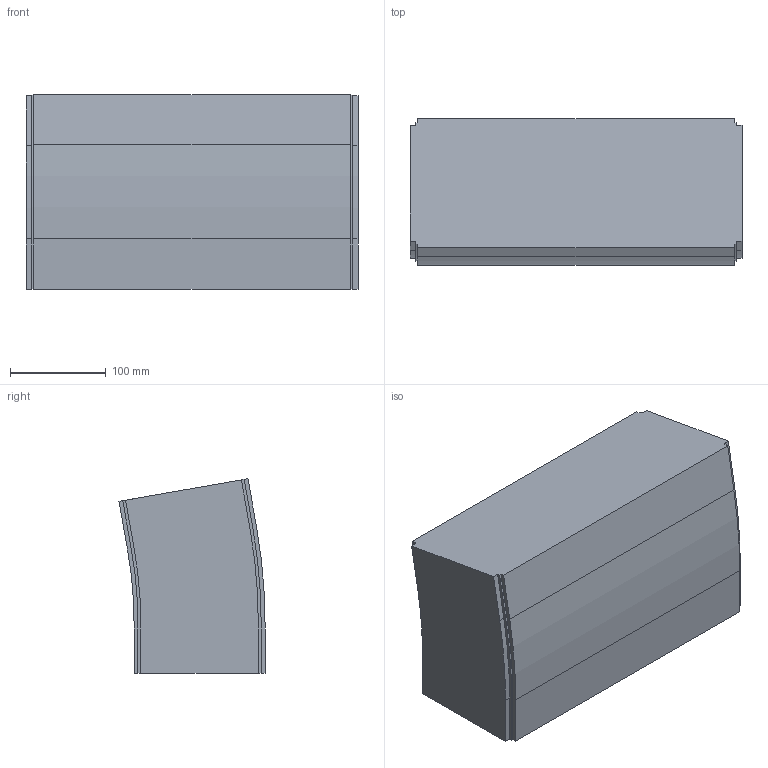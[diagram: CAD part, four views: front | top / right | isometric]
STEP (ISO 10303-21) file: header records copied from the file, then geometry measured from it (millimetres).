
FILE_DESCRIPTION (( 'STEP AP214' ), '1' );
FILE_NAME ('FS-MTC2-150-INOX verticaalbocht.350 10°.STEP', '2017-02-08T12:41:58', ( '' ), ( '' ), 'SwSTEP 2.0', 'SolidWorks 2016', '' );
FILE_SCHEMA (( 'AUTOMOTIVE_DESIGN' ));
Length unit declared in the file: millimetre
Products named in the file (1): FS-MTC2-150-INOX verticaalbocht.350 10°
Bounding box: 346 x 152.18 x 202.88 mm (x, y, z)
Volume: 9042407.1 mm3; surface area: 279598.3 mm2
Topology: 1 solids, 1 shells, 42 faces, 120 edges, 80 vertices
Faces by surface type: plane 32, cylinder 10
Entity records: 1398 total; most frequent: CARTESIAN_POINT 243, ORIENTED_EDGE 240, DIRECTION 226, EDGE_CURVE 120, VECTOR 100, LINE 100, VERTEX_POINT 80, AXIS2_PLACEMENT_3D 63
